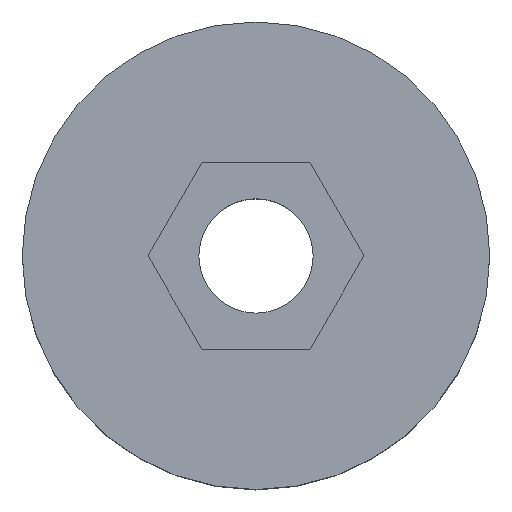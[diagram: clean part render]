
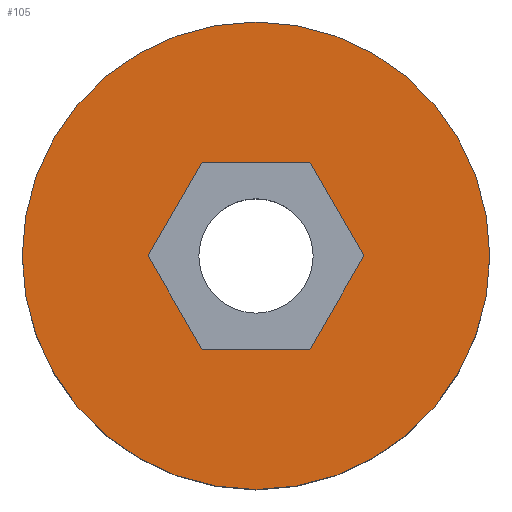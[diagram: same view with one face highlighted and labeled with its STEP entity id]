
A CAD part, top view. The second image highlights one B-rep face of the part: STEP entity #105.
In plain terms, the highlighted planar face has unit normal (0, 0, 1).
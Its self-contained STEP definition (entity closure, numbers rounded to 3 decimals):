
#21 = EDGE_CURVE('',#22,#22,#24,.T.);
#22 = VERTEX_POINT('',#23);
#23 = CARTESIAN_POINT('',(0.,-9.,9.));
#24 = SURFACE_CURVE('',#25,(#30,#42),.PCURVE_S1.);
#25 = CIRCLE('',#26,9.);
#26 = AXIS2_PLACEMENT_3D('',#27,#28,#29);
#27 = CARTESIAN_POINT('',(0.,0.,9.));
#28 = DIRECTION('',(-0.,0.,1.));
#29 = DIRECTION('',(0.,-1.,0.));
#30 = PCURVE('',#31,#36);
#31 = CYLINDRICAL_SURFACE('',#32,9.);
#32 = AXIS2_PLACEMENT_3D('',#33,#34,#35);
#33 = CARTESIAN_POINT('',(0.,0.,0.));
#34 = DIRECTION('',(0.,0.,1.));
#35 = DIRECTION('',(0.,-1.,0.));
#36 = DEFINITIONAL_REPRESENTATION('',(#37),#41);
#37 = LINE('',#38,#39);
#38 = CARTESIAN_POINT('',(0.,9.));
#39 = VECTOR('',#40,1.);
#40 = DIRECTION('',(1.,0.));
#41 = ( GEOMETRIC_REPRESENTATION_CONTEXT(2) 
PARAMETRIC_REPRESENTATION_CONTEXT() REPRESENTATION_CONTEXT('2D SPACE',''
  ) );
#42 = PCURVE('',#43,#48);
#43 = PLANE('',#44);
#44 = AXIS2_PLACEMENT_3D('',#45,#46,#47);
#45 = CARTESIAN_POINT('',(0.,0.,9.));
#46 = DIRECTION('',(0.,0.,1.));
#47 = DIRECTION('',(0.,-1.,0.));
#48 = DEFINITIONAL_REPRESENTATION('',(#49),#53);
#49 = CIRCLE('',#50,9.);
#50 = AXIS2_PLACEMENT_2D('',#51,#52);
#51 = CARTESIAN_POINT('',(0.,0.));
#52 = DIRECTION('',(1.,0.));
#53 = ( GEOMETRIC_REPRESENTATION_CONTEXT(2) 
PARAMETRIC_REPRESENTATION_CONTEXT() REPRESENTATION_CONTEXT('2D SPACE',''
  ) );
#105 = ADVANCED_FACE('',(#106,#109),#43,.T.);
#106 = FACE_BOUND('',#107,.T.);
#107 = EDGE_LOOP('',(#108));
#108 = ORIENTED_EDGE('',*,*,#21,.T.);
#109 = FACE_BOUND('',#110,.T.);
#110 = EDGE_LOOP('',(#111,#141,#169,#197,#225,#253));
#111 = ORIENTED_EDGE('',*,*,#112,.T.);
#112 = EDGE_CURVE('',#113,#115,#117,.T.);
#113 = VERTEX_POINT('',#114);
#114 = CARTESIAN_POINT('',(-2.078,3.6,9.));
#115 = VERTEX_POINT('',#116);
#116 = CARTESIAN_POINT('',(2.078,3.6,9.));
#117 = SURFACE_CURVE('',#118,(#122,#129),.PCURVE_S1.);
#118 = LINE('',#119,#120);
#119 = CARTESIAN_POINT('',(1.039,3.6,9.));
#120 = VECTOR('',#121,1.);
#121 = DIRECTION('',(1.,0.,0.));
#122 = PCURVE('',#43,#123);
#123 = DEFINITIONAL_REPRESENTATION('',(#124),#128);
#124 = LINE('',#125,#126);
#125 = CARTESIAN_POINT('',(-3.6,1.039));
#126 = VECTOR('',#127,1.);
#127 = DIRECTION('',(0.,1.));
#128 = ( GEOMETRIC_REPRESENTATION_CONTEXT(2) 
PARAMETRIC_REPRESENTATION_CONTEXT() REPRESENTATION_CONTEXT('2D SPACE',''
  ) );
#129 = PCURVE('',#130,#135);
#130 = PLANE('',#131);
#131 = AXIS2_PLACEMENT_3D('',#132,#133,#134);
#132 = CARTESIAN_POINT('',(2.078,3.6,5.5));
#133 = DIRECTION('',(0.,-1.,0.));
#134 = DIRECTION('',(-1.,0.,0.));
#135 = DEFINITIONAL_REPRESENTATION('',(#136),#140);
#136 = LINE('',#137,#138);
#137 = CARTESIAN_POINT('',(1.039,-3.5));
#138 = VECTOR('',#139,1.);
#139 = DIRECTION('',(-1.,0.));
#140 = ( GEOMETRIC_REPRESENTATION_CONTEXT(2) 
PARAMETRIC_REPRESENTATION_CONTEXT() REPRESENTATION_CONTEXT('2D SPACE',''
  ) );
#141 = ORIENTED_EDGE('',*,*,#142,.T.);
#142 = EDGE_CURVE('',#115,#143,#145,.T.);
#143 = VERTEX_POINT('',#144);
#144 = CARTESIAN_POINT('',(4.157,0.,9.));
#145 = SURFACE_CURVE('',#146,(#150,#157),.PCURVE_S1.);
#146 = LINE('',#147,#148);
#147 = CARTESIAN_POINT('',(3.637,0.9,9.));
#148 = VECTOR('',#149,1.);
#149 = DIRECTION('',(0.5,-0.866,0.));
#150 = PCURVE('',#43,#151);
#151 = DEFINITIONAL_REPRESENTATION('',(#152),#156);
#152 = LINE('',#153,#154);
#153 = CARTESIAN_POINT('',(-0.9,3.637));
#154 = VECTOR('',#155,1.);
#155 = DIRECTION('',(0.866,0.5));
#156 = ( GEOMETRIC_REPRESENTATION_CONTEXT(2) 
PARAMETRIC_REPRESENTATION_CONTEXT() REPRESENTATION_CONTEXT('2D SPACE',''
  ) );
#157 = PCURVE('',#158,#163);
#158 = PLANE('',#159);
#159 = AXIS2_PLACEMENT_3D('',#160,#161,#162);
#160 = CARTESIAN_POINT('',(4.157,0.,5.5));
#161 = DIRECTION('',(-0.866,-0.5,0.));
#162 = DIRECTION('',(-0.5,0.866,0.));
#163 = DEFINITIONAL_REPRESENTATION('',(#164),#168);
#164 = LINE('',#165,#166);
#165 = CARTESIAN_POINT('',(1.039,-3.5));
#166 = VECTOR('',#167,1.);
#167 = DIRECTION('',(-1.,0.));
#168 = ( GEOMETRIC_REPRESENTATION_CONTEXT(2) 
PARAMETRIC_REPRESENTATION_CONTEXT() REPRESENTATION_CONTEXT('2D SPACE',''
  ) );
#169 = ORIENTED_EDGE('',*,*,#170,.T.);
#170 = EDGE_CURVE('',#143,#171,#173,.T.);
#171 = VERTEX_POINT('',#172);
#172 = CARTESIAN_POINT('',(2.078,-3.6,9.));
#173 = SURFACE_CURVE('',#174,(#178,#185),.PCURVE_S1.);
#174 = LINE('',#175,#176);
#175 = CARTESIAN_POINT('',(2.598,-2.7,9.));
#176 = VECTOR('',#177,1.);
#177 = DIRECTION('',(-0.5,-0.866,0.));
#178 = PCURVE('',#43,#179);
#179 = DEFINITIONAL_REPRESENTATION('',(#180),#184);
#180 = LINE('',#181,#182);
#181 = CARTESIAN_POINT('',(2.7,2.598));
#182 = VECTOR('',#183,1.);
#183 = DIRECTION('',(0.866,-0.5));
#184 = ( GEOMETRIC_REPRESENTATION_CONTEXT(2) 
PARAMETRIC_REPRESENTATION_CONTEXT() REPRESENTATION_CONTEXT('2D SPACE',''
  ) );
#185 = PCURVE('',#186,#191);
#186 = PLANE('',#187);
#187 = AXIS2_PLACEMENT_3D('',#188,#189,#190);
#188 = CARTESIAN_POINT('',(2.078,-3.6,5.5));
#189 = DIRECTION('',(-0.866,0.5,0.));
#190 = DIRECTION('',(0.5,0.866,0.));
#191 = DEFINITIONAL_REPRESENTATION('',(#192),#196);
#192 = LINE('',#193,#194);
#193 = CARTESIAN_POINT('',(1.039,-3.5));
#194 = VECTOR('',#195,1.);
#195 = DIRECTION('',(-1.,0.));
#196 = ( GEOMETRIC_REPRESENTATION_CONTEXT(2) 
PARAMETRIC_REPRESENTATION_CONTEXT() REPRESENTATION_CONTEXT('2D SPACE',''
  ) );
#197 = ORIENTED_EDGE('',*,*,#198,.T.);
#198 = EDGE_CURVE('',#171,#199,#201,.T.);
#199 = VERTEX_POINT('',#200);
#200 = CARTESIAN_POINT('',(-2.078,-3.6,9.));
#201 = SURFACE_CURVE('',#202,(#206,#213),.PCURVE_S1.);
#202 = LINE('',#203,#204);
#203 = CARTESIAN_POINT('',(-1.039,-3.6,9.));
#204 = VECTOR('',#205,1.);
#205 = DIRECTION('',(-1.,0.,0.));
#206 = PCURVE('',#43,#207);
#207 = DEFINITIONAL_REPRESENTATION('',(#208),#212);
#208 = LINE('',#209,#210);
#209 = CARTESIAN_POINT('',(3.6,-1.039));
#210 = VECTOR('',#211,1.);
#211 = DIRECTION('',(0.,-1.));
#212 = ( GEOMETRIC_REPRESENTATION_CONTEXT(2) 
PARAMETRIC_REPRESENTATION_CONTEXT() REPRESENTATION_CONTEXT('2D SPACE',''
  ) );
#213 = PCURVE('',#214,#219);
#214 = PLANE('',#215);
#215 = AXIS2_PLACEMENT_3D('',#216,#217,#218);
#216 = CARTESIAN_POINT('',(-2.078,-3.6,5.5));
#217 = DIRECTION('',(0.,1.,0.));
#218 = DIRECTION('',(1.,0.,0.));
#219 = DEFINITIONAL_REPRESENTATION('',(#220),#224);
#220 = LINE('',#221,#222);
#221 = CARTESIAN_POINT('',(1.039,-3.5));
#222 = VECTOR('',#223,1.);
#223 = DIRECTION('',(-1.,0.));
#224 = ( GEOMETRIC_REPRESENTATION_CONTEXT(2) 
PARAMETRIC_REPRESENTATION_CONTEXT() REPRESENTATION_CONTEXT('2D SPACE',''
  ) );
#225 = ORIENTED_EDGE('',*,*,#226,.T.);
#226 = EDGE_CURVE('',#199,#227,#229,.T.);
#227 = VERTEX_POINT('',#228);
#228 = CARTESIAN_POINT('',(-4.157,0.,9.));
#229 = SURFACE_CURVE('',#230,(#234,#241),.PCURVE_S1.);
#230 = LINE('',#231,#232);
#231 = CARTESIAN_POINT('',(-3.637,-0.9,9.));
#232 = VECTOR('',#233,1.);
#233 = DIRECTION('',(-0.5,0.866,0.));
#234 = PCURVE('',#43,#235);
#235 = DEFINITIONAL_REPRESENTATION('',(#236),#240);
#236 = LINE('',#237,#238);
#237 = CARTESIAN_POINT('',(0.9,-3.637));
#238 = VECTOR('',#239,1.);
#239 = DIRECTION('',(-0.866,-0.5));
#240 = ( GEOMETRIC_REPRESENTATION_CONTEXT(2) 
PARAMETRIC_REPRESENTATION_CONTEXT() REPRESENTATION_CONTEXT('2D SPACE',''
  ) );
#241 = PCURVE('',#242,#247);
#242 = PLANE('',#243);
#243 = AXIS2_PLACEMENT_3D('',#244,#245,#246);
#244 = CARTESIAN_POINT('',(-4.157,0.,5.5));
#245 = DIRECTION('',(0.866,0.5,0.));
#246 = DIRECTION('',(0.5,-0.866,0.));
#247 = DEFINITIONAL_REPRESENTATION('',(#248),#252);
#248 = LINE('',#249,#250);
#249 = CARTESIAN_POINT('',(1.039,-3.5));
#250 = VECTOR('',#251,1.);
#251 = DIRECTION('',(-1.,0.));
#252 = ( GEOMETRIC_REPRESENTATION_CONTEXT(2) 
PARAMETRIC_REPRESENTATION_CONTEXT() REPRESENTATION_CONTEXT('2D SPACE',''
  ) );
#253 = ORIENTED_EDGE('',*,*,#254,.T.);
#254 = EDGE_CURVE('',#227,#113,#255,.T.);
#255 = SURFACE_CURVE('',#256,(#260,#267),.PCURVE_S1.);
#256 = LINE('',#257,#258);
#257 = CARTESIAN_POINT('',(-2.598,2.7,9.));
#258 = VECTOR('',#259,1.);
#259 = DIRECTION('',(0.5,0.866,0.));
#260 = PCURVE('',#43,#261);
#261 = DEFINITIONAL_REPRESENTATION('',(#262),#266);
#262 = LINE('',#263,#264);
#263 = CARTESIAN_POINT('',(-2.7,-2.598));
#264 = VECTOR('',#265,1.);
#265 = DIRECTION('',(-0.866,0.5));
#266 = ( GEOMETRIC_REPRESENTATION_CONTEXT(2) 
PARAMETRIC_REPRESENTATION_CONTEXT() REPRESENTATION_CONTEXT('2D SPACE',''
  ) );
#267 = PCURVE('',#268,#273);
#268 = PLANE('',#269);
#269 = AXIS2_PLACEMENT_3D('',#270,#271,#272);
#270 = CARTESIAN_POINT('',(-2.078,3.6,5.5));
#271 = DIRECTION('',(0.866,-0.5,0.));
#272 = DIRECTION('',(-0.5,-0.866,0.));
#273 = DEFINITIONAL_REPRESENTATION('',(#274),#278);
#274 = LINE('',#275,#276);
#275 = CARTESIAN_POINT('',(1.039,-3.5));
#276 = VECTOR('',#277,1.);
#277 = DIRECTION('',(-1.,0.));
#278 = ( GEOMETRIC_REPRESENTATION_CONTEXT(2) 
PARAMETRIC_REPRESENTATION_CONTEXT() REPRESENTATION_CONTEXT('2D SPACE',''
  ) );
